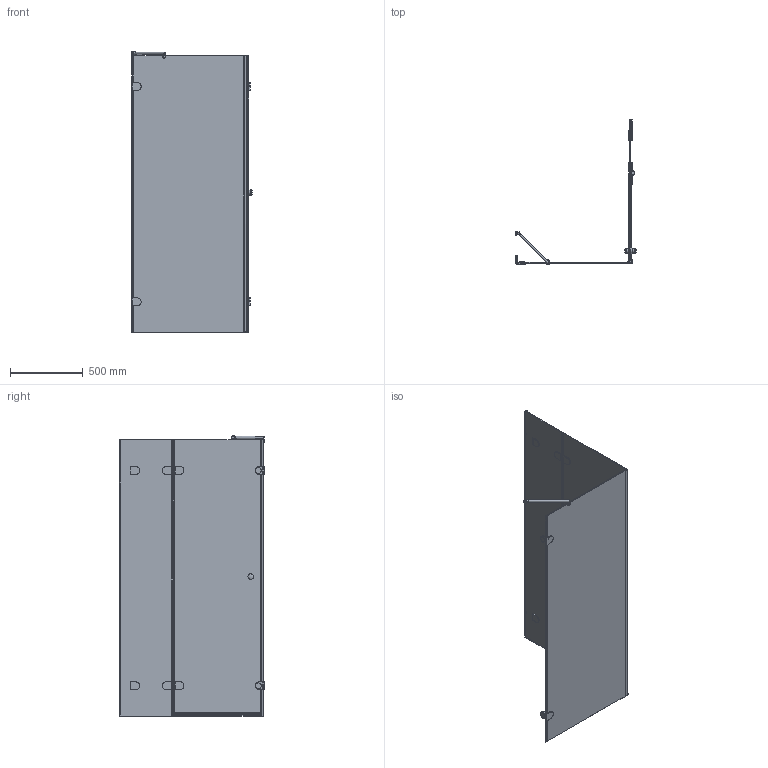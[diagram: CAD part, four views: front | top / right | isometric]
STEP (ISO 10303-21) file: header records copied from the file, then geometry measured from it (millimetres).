
FILE_DESCRIPTION(/* description */ (''),/* implementation_level */ '2;1');
FILE_NAME(/* name */ 'E:\Работа\Сергей\Душевые кабинки\! Работа\LUX SQUARE GK-003GB-2522\LUX SQUARE GK-003GB-2522 правая модель\LUX SQUARE GK-003GB-2522 ПРАВАЯ-3D.stp',/* time_stamp */ '2017-06-01T20:23:49+03:00',/* author */ ('PC'),/* organization */ (''),/* preprocessor_version */ 'ST-DEVELOPER v15.2',/* originating_system */ 'Autodesk Inventor 2014',/* authorisation */ '');
FILE_SCHEMA (('AUTOMOTIVE_DESIGN { 1 0 10303 214 3 1 1 }'));
Length unit declared in the file: millimetre
Products named in the file (1): LUX SQUARE GK-003GB-2522 ПРАВАЯ-
3D
Bounding box: 828 x 997.36 x 1931.5 mm (x, y, z)
Volume: 21087899.6 mm3; surface area: 7237588.9 mm2
Topology: 8 solids, 8 shells, 623 faces, 1671 edges, 1096 vertices
Faces by surface type: plane 413, cylinder 174, torus 18, sphere 8, bspline 8, cone 2
Full cylindrical faces by diameter (mm): 15 x1, 20 x2, 26 x1, 30 x2, 35 x2, 38 x4, 40 x2
Entity records: 20291 total; most frequent: CARTESIAN_POINT 3913, ORIENTED_EDGE 3274, DIRECTION 3221, EDGE_CURVE 1637, LINE 1199, VECTOR 1199, VERTEX_POINT 1087, AXIS2_PLACEMENT_3D 1011
